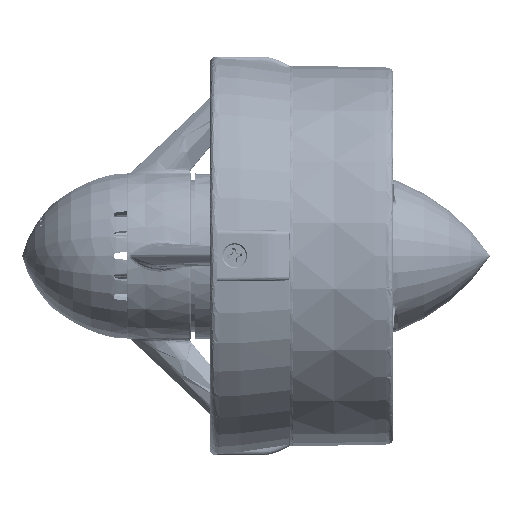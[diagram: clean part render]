
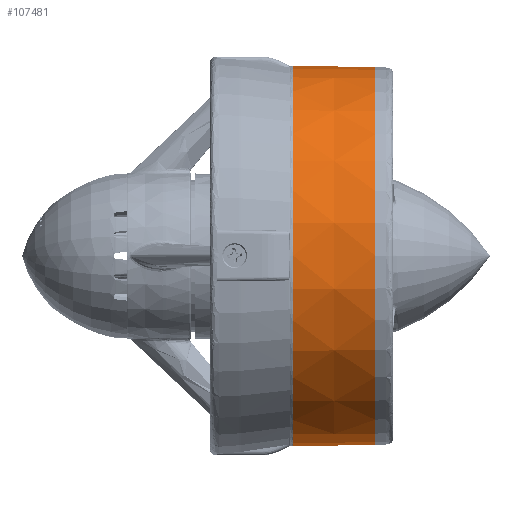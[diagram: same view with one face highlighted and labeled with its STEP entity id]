
A CAD part, top view. The second image highlights one B-rep face of the part: STEP entity #107481.
In plain terms, the highlighted conical face has half-angle 0.5 degrees and reference radius 46.022 mm.
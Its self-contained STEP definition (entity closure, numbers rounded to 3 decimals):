
#539 = ORIENTED_EDGE ( 'NONE', *, *, #49953, .T. ) ;
#1230 = CARTESIAN_POINT ( 'NONE',  ( -1.659, 0., 0. ) ) ;
#2894 = CIRCLE ( 'NONE', #47612, 45.845 ) ;
#3281 = DIRECTION ( 'NONE',  ( 0., 0., 1. ) ) ;
#5888 = AXIS2_PLACEMENT_3D ( 'NONE', #1230, #77574, #29256 ) ;
#9680 = FACE_OUTER_BOUND ( 'NONE', #31530, .T. ) ;
#14910 = DIRECTION ( 'NONE',  ( -1., 0., 0. ) ) ;
#15589 = CARTESIAN_POINT ( 'NONE',  ( -1.659, 0., -46.018 ) ) ;
#15656 = LINE ( 'NONE', #54462, #24031 ) ;
#18332 = CARTESIAN_POINT ( 'NONE',  ( -1.659, 0., 46.018 ) ) ;
#23847 = VERTEX_POINT ( 'NONE', #18332 ) ;
#24031 = VECTOR ( 'NONE', #93229, 1000. ) ;
#28059 = CARTESIAN_POINT ( 'NONE',  ( 18.202, 0., -45.845 ) ) ;
#29256 = DIRECTION ( 'NONE',  ( 0., 0., 1. ) ) ;
#30452 = LINE ( 'NONE', #118837, #108664 ) ;
#31530 = EDGE_LOOP ( 'NONE', ( #31587, #95882, #83453, #539 ) ) ;
#31587 = ORIENTED_EDGE ( 'NONE', *, *, #43335, .F. ) ;
#32558 = EDGE_CURVE ( 'NONE', #124597, #23847, #15656, .T. ) ;
#41878 = DIRECTION ( 'NONE',  ( -1., 0., -0.009 ) ) ;
#43335 = EDGE_CURVE ( 'NONE', #52464, #49283, #30452, .T. ) ;
#46404 = CIRCLE ( 'NONE', #5888, 46.018 ) ;
#47612 = AXIS2_PLACEMENT_3D ( 'NONE', #77575, #100272, #3281 ) ;
#49283 = VERTEX_POINT ( 'NONE', #15589 ) ;
#49953 = EDGE_CURVE ( 'NONE', #23847, #49283, #46404, .T. ) ;
#52464 = VERTEX_POINT ( 'NONE', #28059 ) ;
#54462 = CARTESIAN_POINT ( 'NONE',  ( -2.118, 0., 46.022 ) ) ;
#77574 = DIRECTION ( 'NONE',  ( 1., 0., 0. ) ) ;
#77575 = CARTESIAN_POINT ( 'NONE',  ( 18.202, 0., 0. ) ) ;
#78954 = EDGE_CURVE ( 'NONE', #52464, #124597, #2894, .T. ) ;
#83453 = ORIENTED_EDGE ( 'NONE', *, *, #32558, .T. ) ;
#93229 = DIRECTION ( 'NONE',  ( -1., 0., 0.009 ) ) ;
#95882 = ORIENTED_EDGE ( 'NONE', *, *, #78954, .T. ) ;
#96937 = CARTESIAN_POINT ( 'NONE',  ( 18.202, 0., 45.845 ) ) ;
#100156 = DIRECTION ( 'NONE',  ( 0., 0., 1. ) ) ;
#100272 = DIRECTION ( 'NONE',  ( -1., 0., 0. ) ) ;
#101284 = CONICAL_SURFACE ( 'NONE', #107359, 46.022, 0.009 ) ;
#107359 = AXIS2_PLACEMENT_3D ( 'NONE', #114036, #14910, #100156 ) ;
#107481 = ADVANCED_FACE ( 'NONE', ( #9680 ), #101284, .T. ) ;
#108664 = VECTOR ( 'NONE', #41878, 1000. ) ;
#114036 = CARTESIAN_POINT ( 'NONE',  ( -2.118, 0., 0. ) ) ;
#118837 = CARTESIAN_POINT ( 'NONE',  ( -2.118, 0., -46.022 ) ) ;
#124597 = VERTEX_POINT ( 'NONE', #96937 ) ;
